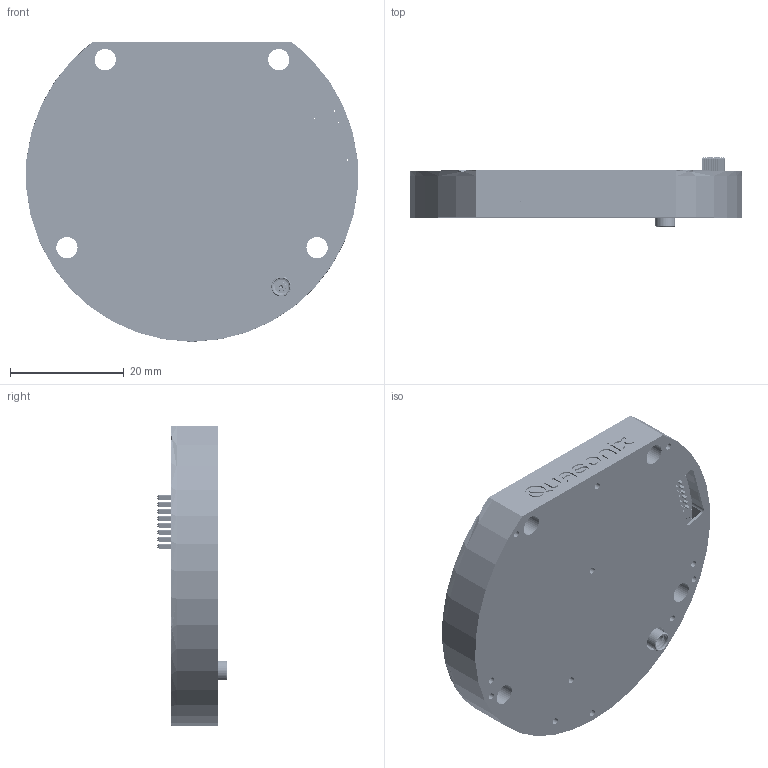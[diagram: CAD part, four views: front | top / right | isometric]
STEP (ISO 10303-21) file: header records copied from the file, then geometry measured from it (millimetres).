
FILE_DESCRIPTION (( 'STEP AP203' ), '1' );
FILE_NAME ('01PB_12-12-13.STEP', '2013-12-12T15:26:54', ( 'Quasonix' ), ( '' ), 'SwSTEP 2.0', 'SolidWorks 2012', '' );
FILE_SCHEMA (( 'CONFIG_CONTROL_DESIGN' ));
Length unit declared in the file: inch
Products named in the file (1): 01PB_12-12-13
Bounding box: 58.32 x 12.15 x 52.59 mm (x, y, z)
Surface area: 21512.2 mm2 (no closed solid volume)
Topology: 0 solids, 16 shells, 4207 faces, 12144 edges, 8038 vertices
Faces by surface type: cylinder 3233, plane 805, bspline 87, cone 60, torus 22
Entity records: 148868 total; most frequent: DIRECTION 26804, CARTESIAN_POINT 26621, ORIENTED_EDGE 24282, EDGE_CURVE 12142, AXIS2_PLACEMENT_3D 10747, VERTEX_POINT 8038, EDGE_LOOP 7135, CIRCLE 6626
